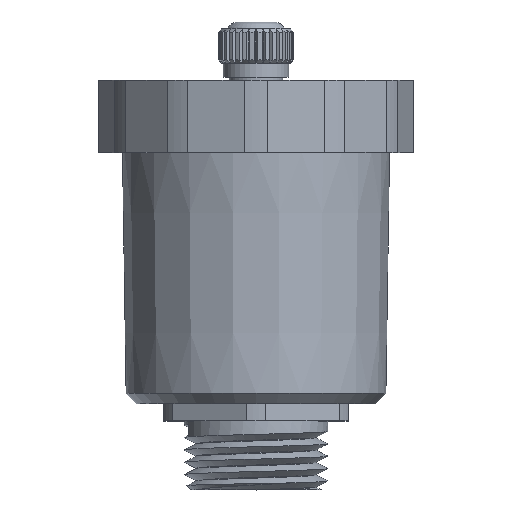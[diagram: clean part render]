
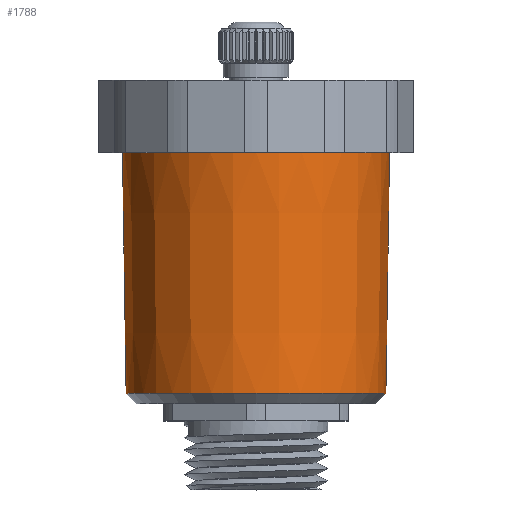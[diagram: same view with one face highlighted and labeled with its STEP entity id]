
A CAD part, top view. The second image highlights one B-rep face of the part: STEP entity #1788.
In plain terms, the highlighted conical face has half-angle 0.863 degrees and reference radius 19.136 mm.
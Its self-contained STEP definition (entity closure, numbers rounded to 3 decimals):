
#1788=ADVANCED_FACE('',(#4075,#4077),#4079,.T.);
#4075=FACE_BOUND('',#4076,.T.);
#4076=EDGE_LOOP('',(#6266,#6267));
#4077=FACE_OUTER_BOUND('',#4078,.T.);
#4078=EDGE_LOOP('',(#6268));
#4079=CONICAL_SURFACE('',#4080,19.136,0.015);
#4080=AXIS2_PLACEMENT_3D('',#4081,#4082,#4083);
#4081=CARTESIAN_POINT('',(0.,2.,0.));
#4082=DIRECTION('',(0.,1.,0.));
#4083=DIRECTION('',(1.,0.,0.));
#6266=ORIENTED_EDGE('',*,*,#7376,.F.);
#6267=ORIENTED_EDGE('',*,*,#7377,.F.);
#6268=ORIENTED_EDGE('',*,*,#7318,.T.);
#7318=EDGE_CURVE('',#8250,#8250,#8251,.T.);
#7376=EDGE_CURVE('',#8366,#8367,#8368,.T.);
#7377=EDGE_CURVE('',#8367,#8366,#8369,.T.);
#8250=VERTEX_POINT('',#12356);
#8251=CIRCLE('',#12357,19.4);
#8366=VERTEX_POINT('',#12606);
#8367=VERTEX_POINT('',#12607);
#8368=CIRCLE('',#12608,18.873);
#8369=CIRCLE('',#12612,18.873);
#12356=CARTESIAN_POINT('',(-19.4,19.5,0.));
#12357=AXIS2_PLACEMENT_3D('',#12358,#12359,#12360);
#12358=CARTESIAN_POINT('',(0.,19.5,0.));
#12359=DIRECTION('',(0.,-1.,0.));
#12360=DIRECTION('',(0.,0.,-1.));
#12606=CARTESIAN_POINT('',(-18.873,-15.5,0.));
#12607=CARTESIAN_POINT('',(18.873,-15.5,0.));
#12608=AXIS2_PLACEMENT_3D('',#12609,#12610,#12611);
#12609=CARTESIAN_POINT('',(0.,-15.5,0.));
#12610=DIRECTION('',(0.,-1.,0.));
#12611=DIRECTION('',(-1.,0.,0.));
#12612=AXIS2_PLACEMENT_3D('',#12613,#12614,#12615);
#12613=CARTESIAN_POINT('',(0.,-15.5,0.));
#12614=DIRECTION('',(0.,-1.,0.));
#12615=DIRECTION('',(1.,0.,0.));
